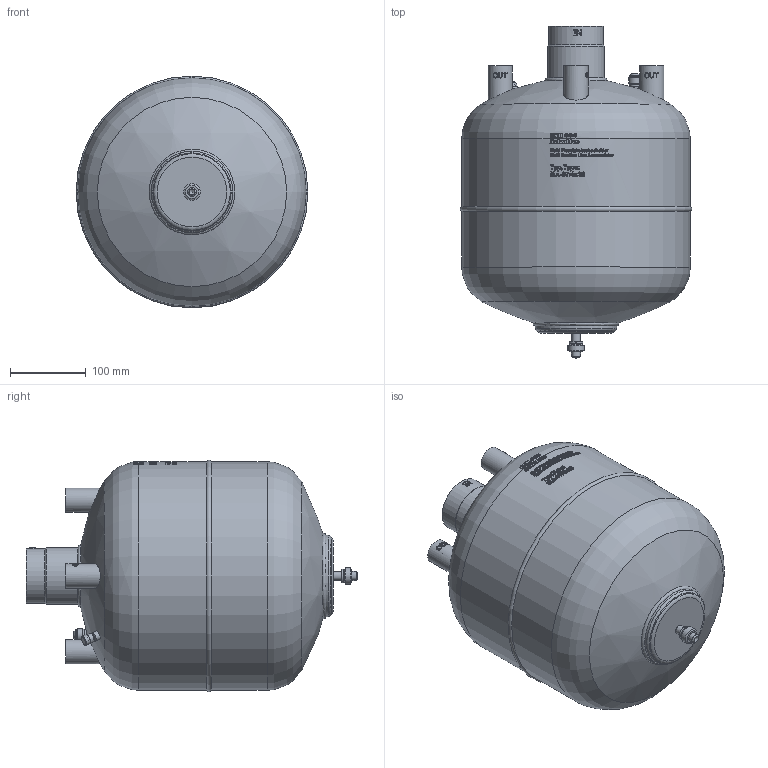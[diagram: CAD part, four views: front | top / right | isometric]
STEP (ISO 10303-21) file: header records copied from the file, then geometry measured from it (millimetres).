
FILE_DESCRIPTION(/* description */ (''),/* implementation_level */ '2;1');
FILE_NAME(/* name */ 'P:\MA\MA-67_4x28\MA-67_4x28.stp',/* time_stamp */ '2017-10-05T08:39:30+02:00',/* author */ ('neufeld'),/* organization */ (''),/* preprocessor_version */ 'ST-DEVELOPER v16.1',/* originating_system */ 'Autodesk Inventor 2016',/* authorisation */ '');
FILE_SCHEMA (('AUTOMOTIVE_DESIGN { 1 0 10303 214 3 1 1 }'));
Length unit declared in the file: millimetre
Products named in the file (2): MA-67_4x28; MA-67_4x28_1
Assembly tree (1 placements, depth 2):
  MA-67_4x28_1
    MA-67_4x28
Bounding box: 306.39 x 438.86 x 306.39 mm (x, y, z)
Volume: 20181305 mm3; surface area: 425371.6 mm2
Topology: 2 solids, 5 shells, 1615 faces, 4314 edges, 2869 vertices
Faces by surface type: plane 857, bspline 539, cylinder 175, cone 20, torus 16, sphere 8
Full cylindrical faces by diameter (mm): 3.7 x1, 4 x1, 4.64 x1, 5.4 x1, 7.2 x1, 8.9 x2, 9.8 x1, 10 x1, 12 x3, 12.3 x1, 12.7 x1, 12.9 x1, 13.5 x1, 15.7 x1, 16 x1, 16.2 x1, 21.939 x1, 26.4 x4, 28.7 x4, 32 x4, 32.2 x4, 67.3 x1, 72.5 x1, 75.4 x1, 107.5 x1, 302 x2
Entity records: 62078 total; most frequent: CARTESIAN_POINT 25820, ORIENTED_EDGE 8438, DIRECTION 5739, EDGE_CURVE 4219, VERTEX_POINT 2846, AXIS2_PLACEMENT_3D 1923, LINE 1893, VECTOR 1893
